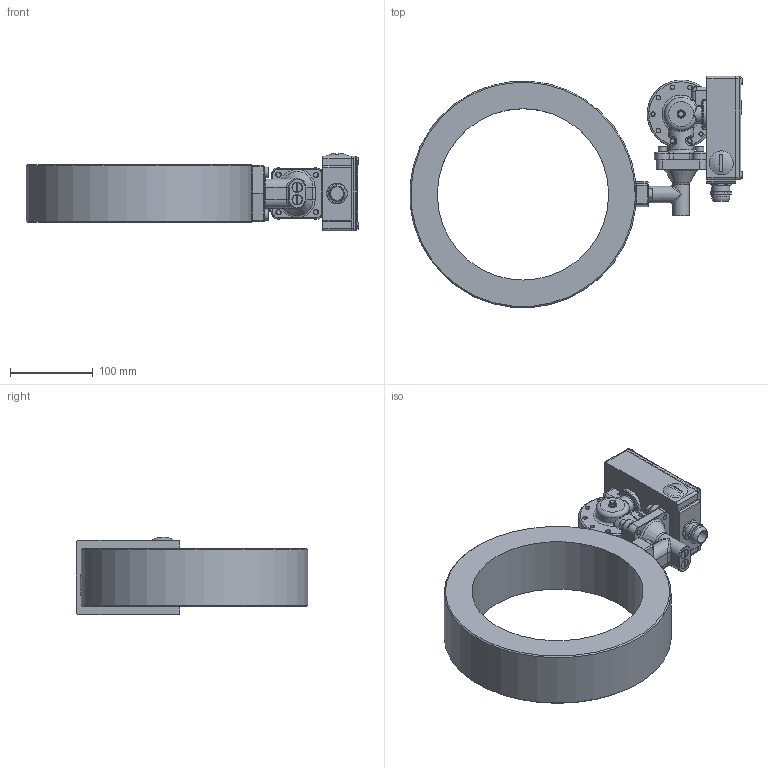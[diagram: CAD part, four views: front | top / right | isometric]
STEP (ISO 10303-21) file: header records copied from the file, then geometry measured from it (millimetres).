
FILE_DESCRIPTION(/* description */ ('Alibre Inc.'),/* implementation_level */ '2;1');
FILE_NAME(/* name */ 'export0',/* time_stamp */ '2012-10-15T13:34:16+02:00',/* author */ (''),/* organization */ (''),/* preprocessor_version */ 'ST-DEVELOPER v14',/* originating_system */ 'Alibre',/* authorisation */ '');
FILE_SCHEMA (('CONFIG_CONTROL_DESIGN'));
Length unit declared in the file: centimetre
Products named in the file (13): ID_1; ID_2; ID_3; ID_4; ID_5; ID_6; ID_7; ID_8; ID_9
Bounding box: 400.99 x 279.23 x 93.66 mm (x, y, z)
Volume: 2161180.6 mm3; surface area: 326144.9 mm2
Topology: 29 solids, 29 shells, 1094 faces, 2578 edges, 1625 vertices
Faces by surface type: plane 540, cylinder 251, bspline 168, torus 65, cone 65, sphere 5
Full cylindrical faces by diameter (mm): 5 x23, 5.5 x18, 6 x12, 6.038 x2, 6.5 x4, 7.5 x1, 8 x18, 8.3 x9, 8.5 x2, 8.7 x2, 9.6 x4, 10 x4, 11.75 x2, 11.85 x1, 12 x2, 13 x2, 14 x2, 16 x1, 17.966 x1, 22 x2, 22.5 x4, 31 x1, 32 x1, 47 x1, 56 x2, 207 x1
Entity records: 34369 total; most frequent: CARTESIAN_POINT 13997, ORIENTED_EDGE 3918, DIRECTION 3181, EDGE_CURVE 1959, VERTEX_POINT 1309, AXIS2_PLACEMENT_3D 1303, EDGE_LOOP 1146, FACE_BOUND 1146
